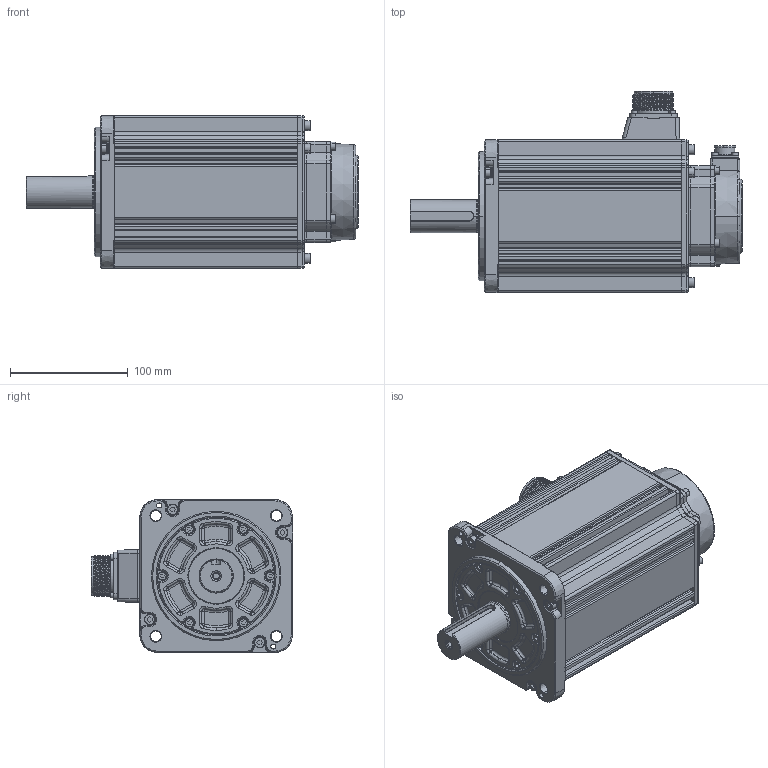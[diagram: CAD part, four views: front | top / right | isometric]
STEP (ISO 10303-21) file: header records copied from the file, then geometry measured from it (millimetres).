
FILE_DESCRIPTION (( 'STEP AP203' ), '1' );
FILE_NAME ('MS6S-130TH30B2-43P0.STEP', '2024-04-28T02:26:43', ( '' ), ( '' ), 'SwSTEP 2.0', 'SolidWorks 2022', '' );
FILE_SCHEMA (( 'CONFIG_CONTROL_DESIGN' ));
Length unit declared in the file: millimetre
Products named in the file (1): MS6S-130TH30B2-43P0
Bounding box: 282.3 x 171.1 x 130 mm (x, y, z)
Surface area: 181161.1 mm2 (no closed solid volume)
Topology: 0 solids, 72 shells, 1312 faces, 4471 edges, 3169 vertices
Faces by surface type: plane 486, cylinder 370, torus 188, cone 145, bspline 115, sphere 8
Entity records: 57954 total; most frequent: CARTESIAN_POINT 21210, DIRECTION 7421, ORIENTED_EDGE 7002, EDGE_CURVE 4441, VERTEX_POINT 3169, AXIS2_PLACEMENT_3D 2731, VECTOR 1959, LINE 1959
